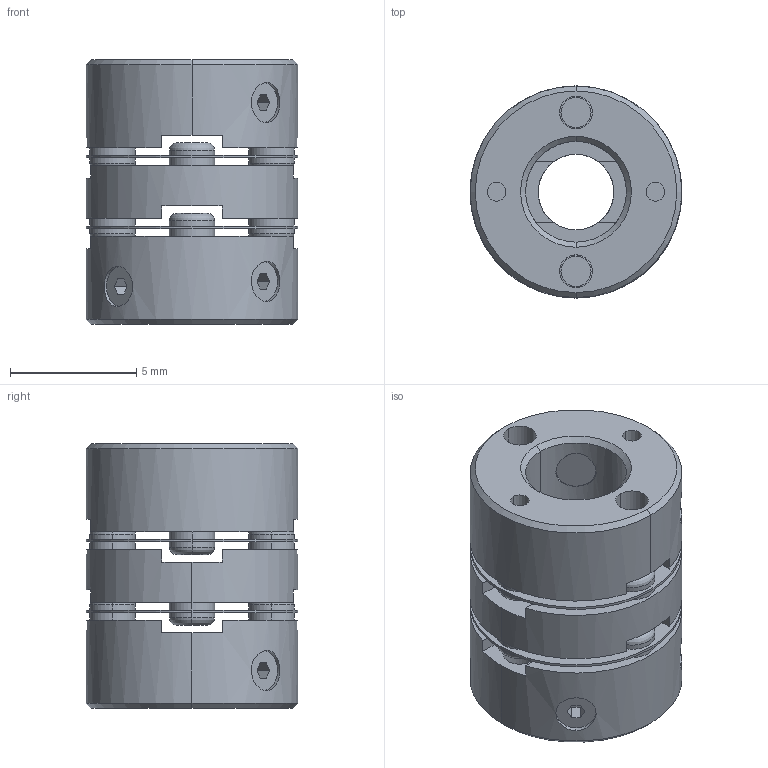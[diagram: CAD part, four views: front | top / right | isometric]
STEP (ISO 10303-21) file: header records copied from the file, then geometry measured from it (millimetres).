
FILE_DESCRIPTION((''),'2;1');
FILE_NAME('LAD-8.4-3×4.stp','2015-10-05T13:43:00',(''),(''),'AutoCAD STEP 2000i','AutoCAD 2000i',', , ');
FILE_SCHEMA(('CONFIG_CONTROL_DESIGN'));
Length unit declared in the file: millimetre
Products named in the file (7): LAD-8.4-3×4; 忣兜1; ﾊﾌﾞφ3-2; ﾊﾌﾞφ3-1; ﾊﾌﾞφ3; SET-M1.6亊2.5; LAD板ﾊﾞﾈ部
Assembly tree (7 placements, depth 2):
  LAD-8.4-3×4
    忣兜1
    ﾊﾌﾞφ3-2
    ﾊﾌﾞφ3-1
    ﾊﾌﾞφ3  x2
    SET-M1.6亊2.5
    LAD板ﾊﾞﾈ部
Bounding box: 8.4 x 8.4 x 10.5 mm (x, y, z)
Volume: 382.9 mm3; surface area: 828.8 mm2
Topology: 1 solids, 1 shells, 194 faces, 489 edges, 337 vertices
Faces by surface type: plane 86, cylinder 84, torus 16, cone 8
Entity records: 6330 total; most frequent: CARTESIAN_POINT 1286, DIRECTION 1098, ORIENTED_EDGE 944, EDGE_CURVE 472, AXIS2_PLACEMENT_3D 434, VERTEX_POINT 308, EDGE_LOOP 248, CIRCLE 232
